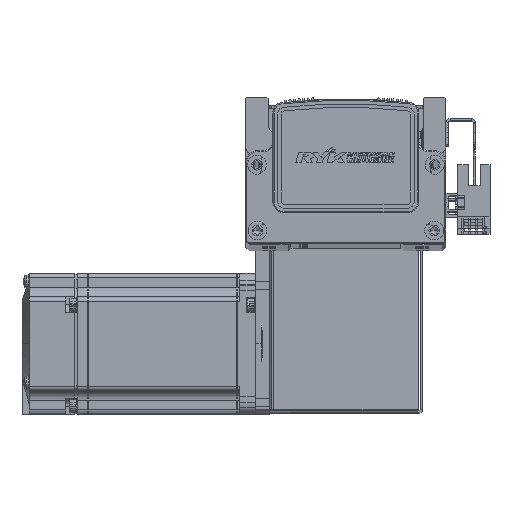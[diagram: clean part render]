
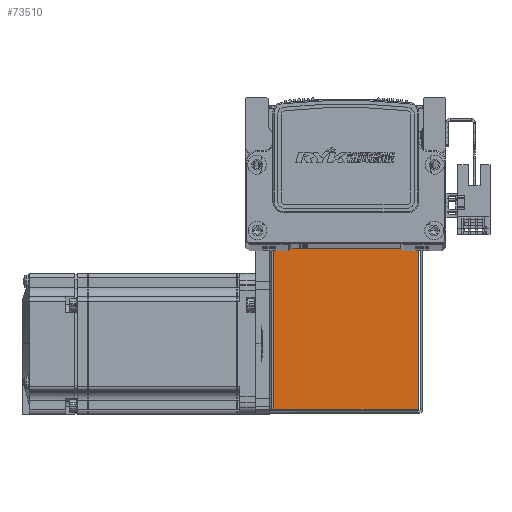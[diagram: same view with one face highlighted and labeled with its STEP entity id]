
A CAD part, top view. The second image highlights one B-rep face of the part: STEP entity #73510.
In plain terms, the highlighted planar face has unit normal (0, 0, 1) as drawn and (0, 0, -1) by its records, which use the part's own axes.
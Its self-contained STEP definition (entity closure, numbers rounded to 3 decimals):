
#30602 = EDGE_CURVE ( 'NONE', #45056, #45103, #40604, .T. ) ;
#30670 = EDGE_CURVE ( 'NONE', #45103, #45075, #40686, .T. ) ;
#30710 = EDGE_CURVE ( 'NONE', #45056, #45054, #40699, .T. ) ;
#30725 = EDGE_CURVE ( 'NONE', #45075, #45054, #40777, .T. ) ;
#33815 = AXIS2_PLACEMENT_3D ( 'NONE', #53120, #53089, #53118 ) ;
#35515 = CARTESIAN_POINT ( 'NONE',  ( -30.793, 72.5, -35. ) ) ;
#35536 = CARTESIAN_POINT ( 'NONE',  ( -30.793, 0.737, -35. ) ) ;
#35557 = CARTESIAN_POINT ( 'NONE',  ( 30.763, 72.5, -35. ) ) ;
#35578 = CARTESIAN_POINT ( 'NONE',  ( 30.763, 0.737, -35. ) ) ;
#40014 = CARTESIAN_POINT ( 'NONE',  ( -30.793, 0., -35. ) ) ;
#40016 = DIRECTION ( 'NONE',  ( 0., 1., 0. ) ) ;
#40086 = CARTESIAN_POINT ( 'NONE',  ( 0., 72.5, -35. ) ) ;
#40087 = DIRECTION ( 'NONE',  ( 1., 0., 0. ) ) ;
#40181 = DIRECTION ( 'NONE',  ( 1., 0., 0. ) ) ;
#40190 = CARTESIAN_POINT ( 'NONE',  ( 32.5, 0.737, -35. ) ) ;
#40194 = DIRECTION ( 'NONE',  ( 0., -1., 0. ) ) ;
#40216 = CARTESIAN_POINT ( 'NONE',  ( 30.763, 72.5, -35. ) ) ;
#40604 = LINE ( 'NONE', #40014, #40632 ) ;
#40632 = VECTOR ( 'NONE', #40016, 1000. ) ;
#40673 = VECTOR ( 'NONE', #40087, 1000. ) ;
#40686 = LINE ( 'NONE', #40086, #40673 ) ;
#40699 = LINE ( 'NONE', #40190, #40709 ) ;
#40709 = VECTOR ( 'NONE', #40181, 1000. ) ;
#40777 = LINE ( 'NONE', #40216, #40779 ) ;
#40779 = VECTOR ( 'NONE', #40194, 1000. ) ;
#45054 = VERTEX_POINT ( 'NONE', #35578 ) ;
#45056 = VERTEX_POINT ( 'NONE', #35536 ) ;
#45075 = VERTEX_POINT ( 'NONE', #35557 ) ;
#45103 = VERTEX_POINT ( 'NONE', #35515 ) ;
#53079 = PLANE ( 'NONE',  #33815 ) ;
#53089 = DIRECTION ( 'NONE',  ( 0., 0., 1. ) ) ;
#53118 = DIRECTION ( 'NONE',  ( 0., -1., 0. ) ) ;
#53120 = CARTESIAN_POINT ( 'NONE',  ( 0., 0., -35. ) ) ;
#54930 = EDGE_LOOP ( 'NONE', ( #65854, #65930, #65934, #65982 ) ) ;
#65854 = ORIENTED_EDGE ( 'NONE', *, *, #30725, .T. ) ;
#65930 = ORIENTED_EDGE ( 'NONE', *, *, #30710, .F. ) ;
#65934 = ORIENTED_EDGE ( 'NONE', *, *, #30602, .T. ) ;
#65982 = ORIENTED_EDGE ( 'NONE', *, *, #30670, .T. ) ;
#66673 = FACE_OUTER_BOUND ( 'NONE', #54930, .T. ) ;
#73510 = ADVANCED_FACE ( 'NONE', ( #66673 ), #53079, .F. ) ;
